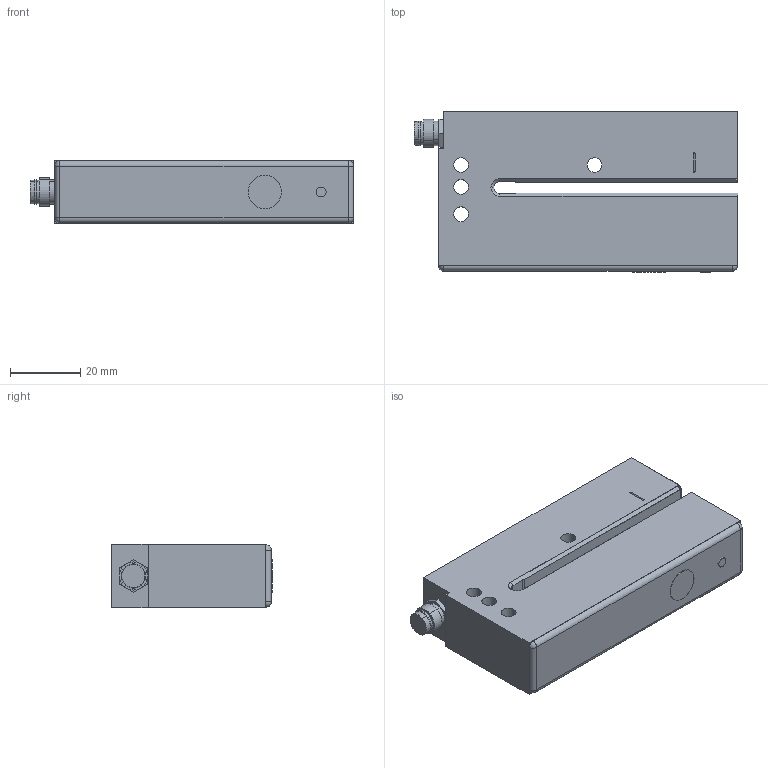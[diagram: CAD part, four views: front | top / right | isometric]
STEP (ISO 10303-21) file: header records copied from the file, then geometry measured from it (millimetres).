
FILE_DESCRIPTION(('STEP AP214'),'1');
FILE_NAME('FC-2300NP_D.stp','2024-02-12T17:00:37',(' '),(' '),'Spatial InterOp 3D',' ',' ');
FILE_SCHEMA(('AUTOMOTIVE_DESIGN { 1 0 10303 214 1 1 1 1 }'));
Length unit declared in the file: metre
Products named in the file (6): Sensor; Sensor Geometry; Component1; Component3; Component4; FC-2300NP_D
Assembly tree (5 placements, depth 3):
  FC-2300NP_D
    Sensor
      Sensor Geometry
      Component1
      Component3
      Component4
Bounding box: 92.22 x 45.92 x 18 mm (x, y, z)
Volume: 393.1 mm3; surface area: 15608.3 mm2
Topology: 4 solids, 47 shells, 82 faces, 311 edges, 266 vertices
Faces by surface type: plane 36, cylinder 32, sphere 8, cone 6
Entity records: 4402 total; most frequent: CARTESIAN_POINT 654, DIRECTION 609, ORIENTED_EDGE 370, EDGE_CURVE 299, VERTEX_POINT 266, AXIS2_PLACEMENT_3D 221, LINE 167, VECTOR 167
